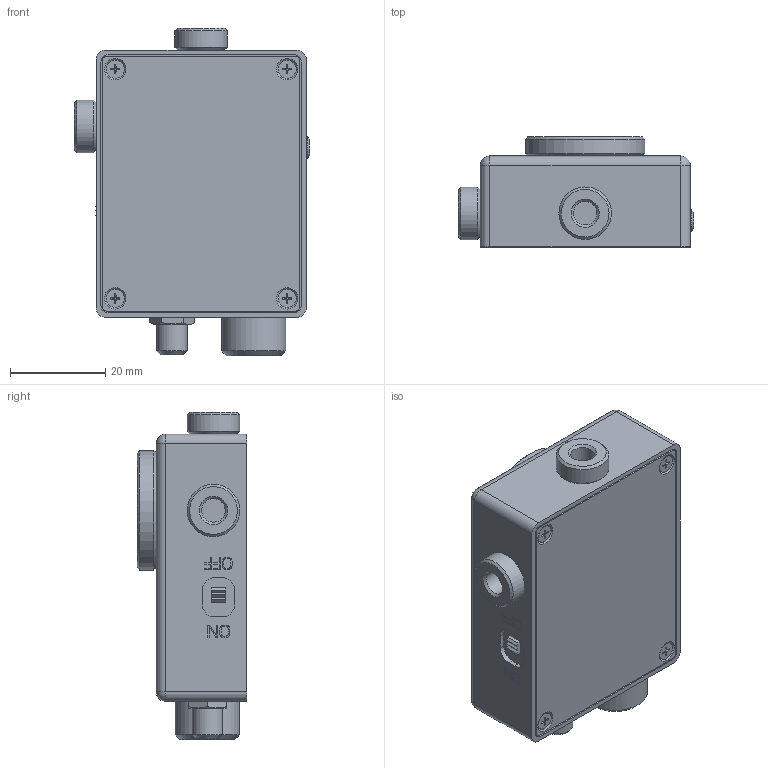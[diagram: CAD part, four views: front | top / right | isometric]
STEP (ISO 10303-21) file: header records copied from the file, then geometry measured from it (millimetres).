
FILE_DESCRIPTION(/* description */ (''),/* implementation_level */ '2;1');
FILE_NAME(/* name */ 'Y:\IvDoronin\Фотоприемники\- Модели -\1. Фотоприемники в фотодиодном режиме\OD2.0001-01 МС Фотоприемник_Shrinkwrap OD-1B.stp',/* time_stamp */ '2019-08-05T11:55:02+03:00',/* author */ ('svlad'),/* organization */ (''),/* preprocessor_version */ 'ST-DEVELOPER v17',/* originating_system */ 'Autodesk Inventor 2019',/* authorisation */ '');
FILE_SCHEMA (('AUTOMOTIVE_DESIGN { 1 0 10303 214 3 1 1 }'));
Products named in the file (1): OD2.0001-01 МС Фотоприемник_
Shrinkwrap OD-1B
Bounding box: 49.24 x 23 x 68.54 mm (x, y, z)
Volume: 49029.8 mm3; surface area: 11109.9 mm2
Topology: 1 solids, 1 shells, 1294 faces, 3568 edges, 2381 vertices
Faces by surface type: plane 737, bspline 382, cylinder 99, cone 52, torus 20, sphere 4
Full cylindrical faces by diameter (mm): 0.975 x1, 1.6 x1, 1.791 x1, 3.8 x4, 4.5 x2, 4.7 x1, 4.917 x2, 5 x2, 5.4 x1, 5.6 x1, 6.4 x2, 7 x1, 10.2 x1, 11 x2, 12 x1, 12.5 x1, 12.918 x1, 13.5 x1, 25 x1
Entity records: 49309 total; most frequent: CARTESIAN_POINT 17415, ORIENTED_EDGE 7136, DIRECTION 4817, EDGE_CURVE 3568, VERTEX_POINT 2381, LINE 2267, VECTOR 2267, EDGE_LOOP 1459
